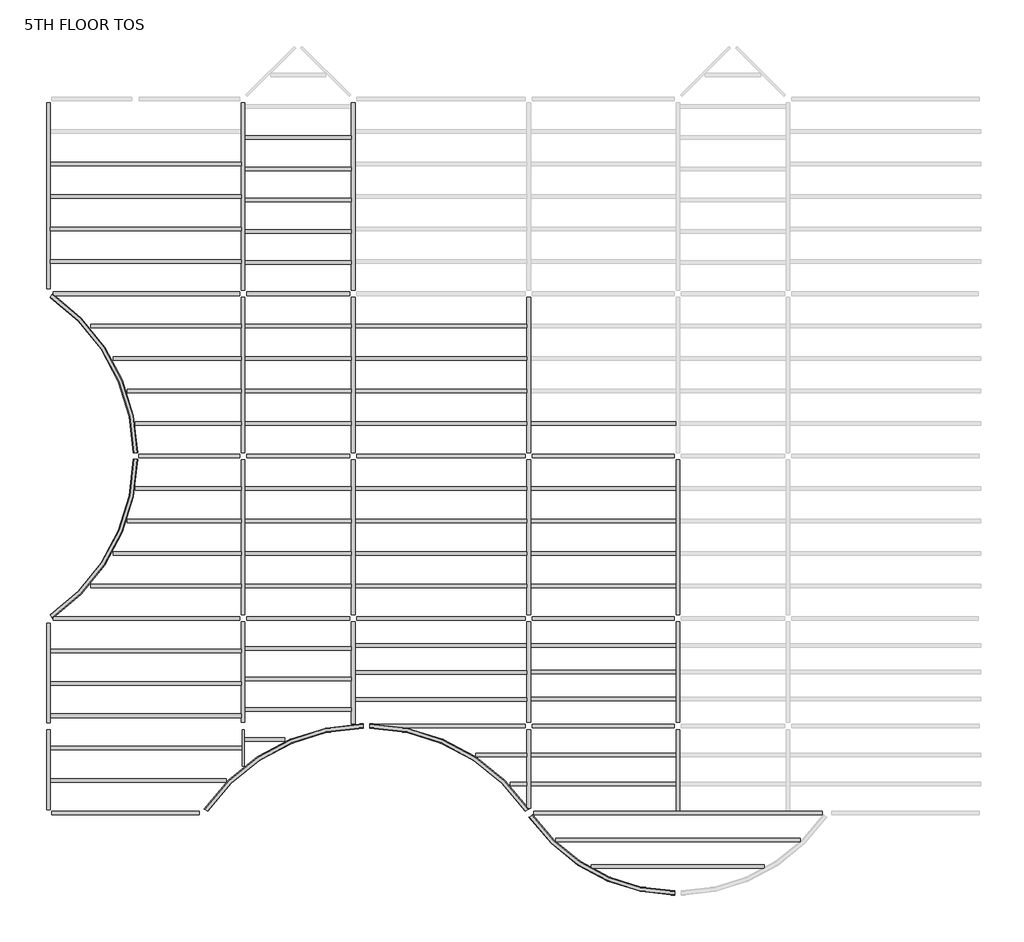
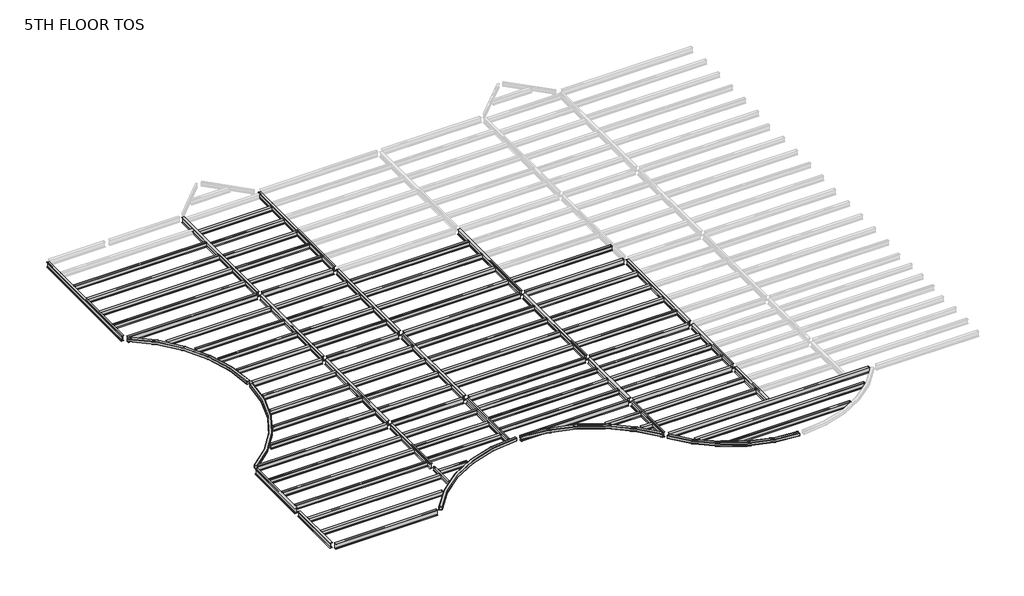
# One storey, part 1 of 2: 97 beams.
"""IFC4 building model written with IfcOpenShell, lengths in millimetres."""

from ifc_helpers import new_model, si_unit, origin, place, context, project, spatial, transform, mapped, element, save
from components import m_hss_square_hss203_2x203_2x9_5_914ff4eb, m_hss_square_hss203_2x203_2x9_5_0e3d8e6e, m_hss_square_hss203_2x203_2x9_5_16dc1c03, m_hss_square_hss203_2x203_2x9_5_18346204, m_hss_square_hss203_2x203_2x9_5_d5f1e8c4, ub_universal_beams_ub254x102x28_4e7f3726, ub_universal_beams_ub305x165x40_c4d0385b, ub_universal_beams_ub305x165x40_d3abc31d, ub_universal_beams_ub305x165x40_0c73730f, ub_universal_beams_ub305x165x40_2a963f0c, ub_universal_beams_ub305x165x40_0a5f2f96, ub_universal_beams_ub305x165x40_d1f7c369, ub_universal_beams_ub305x165x40_83d7b7d5, ub_universal_beams_ub305x165x40_729a4ea5, ub_universal_beams_ub305x165x40_71dfa851, ub_universal_beams_ub305x165x40_619b5398, ub_universal_beams_ub305x165x40_c3492db1, ub_universal_beams_ub305x165x40_8f1c350d, ub_universal_beams_ub305x165x40_3afb5f90, ub_universal_beams_ub305x165x40_767d1929, ub_universal_beams_ub305x165x40_5941ca45, ub_universal_beams_ub356x171x51_ef72dcdd, ub_universal_beams_ub356x171x51_7f80702c, ub_universal_beams_ub356x171x51_dfc36663, ub_universal_beams_ub356x171x51_405a853e, ub_universal_beams_ub356x171x51_e47b7055, ub_universal_beams_ub356x171x51_e97f8d2e, ub_universal_beams_ub356x171x51_11d6b780, ub_universal_beams_ub356x171x51_76b2d20b, ub_universal_beams_ub356x171x51_145ecd4b, ub_universal_beams_ub356x171x51_c7dff8d2, ub_universal_beams_ub356x171x51_834c6e34, ub_universal_beams_ub356x171x51_a38b99de, ub_universal_beams_ub356x171x51_d8f4cdde, ub_universal_beams_ub356x171x51_8094f821, ub_universal_beams_ub356x171x51_c03c70fb, ub_universal_beams_ub356x171x51_e661f2e4, ub_universal_beams_ub356x171x51_3ee91673, ub_universal_beams_ub356x171x51_a871b283, ub_universal_beams_ub356x171x51_741bae58

model = new_model("IFC4")

# Units and contexts
model_context = context("Model", 3, world=origin())
ifc_project = project(units=[si_unit("LENGTHUNIT", "METRE", prefix="MILLI")], contexts=[model_context])

# Site, building, storey
site = spatial("IfcSite", under=ifc_project)
building = spatial("IfcBuilding", under=site)
storey = spatial("IfcBuildingStorey", under=building, Name="5TH FLOOR TOS", Elevation=22707.6)

# Beams
placement = place(None, origin())
m_hss_square_hss203_2x203_2x9_5_shape = m_hss_square_hss203_2x203_2x9_5_914ff4eb(model_context)
element("IfcBeam", 1, ObjectType="M_HSS Square : HSS203.2X203.2X9.5", at=placement, inside=storey, context=model_context, shape_type="MappedRepresentation", body=[
    mapped(m_hss_square_hss203_2x203_2x9_5_shape, transform((22710.575, 155.575, 22606.1), x_axis=(-0.552849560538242, 0.8332810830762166, 0.0), y_axis=(-0.8332810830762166, -0.552849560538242, 0.0), z_axis=(0.0, 0.0, 1.0))),
])
m_hss_square_hss203_2x203_2x9_5_2_shape = m_hss_square_hss203_2x203_2x9_5_0e3d8e6e(model_context)
element("IfcBeam", 2, ObjectType="M_HSS Square : HSS203.2X203.2X9.5", at=placement, inside=storey, context=model_context, shape_type="MappedRepresentation", body=[
    mapped(m_hss_square_hss203_2x203_2x9_5_2_shape, transform((155.575, 9299.575, 22606.1), x_axis=(0.8332810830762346, 0.5528495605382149, 0.0), y_axis=(-0.5528495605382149, 0.8332810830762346, 0.0), z_axis=(0.0, 0.0, 1.0))),
])
m_hss_square_hss203_2x203_2x9_5_3_shape = m_hss_square_hss203_2x203_2x9_5_16dc1c03(model_context)
element("IfcBeam", 3, ObjectType="M_HSS Square : HSS203.2X203.2X9.5", at=placement, inside=storey, context=model_context, shape_type="MappedRepresentation", body=[
    mapped(m_hss_square_hss203_2x203_2x9_5_3_shape, transform((155.575, 24539.575, 22606.1), x_axis=(0.8332810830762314, -0.5528495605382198, 0.0), y_axis=(0.5528495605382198, 0.8332810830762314, 0.0), z_axis=(0.0, 0.0, 1.0))),
])
m_hss_square_hss203_2x203_2x9_5_4_shape = m_hss_square_hss203_2x203_2x9_5_18346204(model_context)
element("IfcBeam", 4, ObjectType="M_HSS Square : HSS203.2X203.2X9.5", at=placement, inside=storey, context=model_context, shape_type="MappedRepresentation", body=[
    mapped(m_hss_square_hss203_2x203_2x9_5_4_shape, transform((29734.7266693, -3601.398624, 22606.1), x_axis=(-0.9999968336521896, -0.0025164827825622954, 0.0), y_axis=(0.0025164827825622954, -0.9999968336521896, 0.0), z_axis=(0.0, 0.0, 1.0))),
])
m_hss_square_hss203_2x203_2x9_5_5_shape = m_hss_square_hss203_2x203_2x9_5_d5f1e8c4(model_context)
element("IfcBeam", 5, ObjectType="M_HSS Square : HSS203.2X203.2X9.5", at=placement, inside=storey, context=model_context, shape_type="MappedRepresentation", body=[
    mapped(m_hss_square_hss203_2x203_2x9_5_5_shape, transform((15096.4572854, 4244.5731081, 22606.1), x_axis=(-0.9999997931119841, 0.0006432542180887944, 0.0), y_axis=(-0.0006432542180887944, -0.9999997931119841, 0.0), z_axis=(0.0, 0.0, 1.0))),
])
ub_universal_beams_ub254x102x28_shape = ub_universal_beams_ub254x102x28_4e7f3726(model_context)
element("IfcBeam", 6, ObjectType="UB-Universal Beams : UB254x102x28", at=placement, inside=storey, context=model_context, shape_type="MappedRepresentation", body=[
    mapped(ub_universal_beams_ub254x102x28_shape, transform((9299.575, 3210.915913, 22577.4), x_axis=(0.0, -1.0, 0.0), y_axis=(1.0, 0.0, 0.0), z_axis=(0.0, 0.0, 1.0))),
])
ub_universal_beams_ub305x165x40_shape = ub_universal_beams_ub305x165x40_c4d0385b(model_context)
element("IfcBeam", 7, ObjectType="UB-Universal Beams : UB305x165x40", at=placement, inside=storey, context=model_context, shape_type="MappedRepresentation", body=[
    mapped(ub_universal_beams_ub305x165x40_shape, transform((4727.575, 30635.575, 22555.9), x_axis=(1.0, 0.0, 0.0), y_axis=(0.0, 1.0, 0.0), z_axis=(0.0, 0.0, 1.0))),
])
element("IfcBeam", 8, ObjectType="UB-Universal Beams : UB305x165x40", at=placement, inside=storey, context=model_context, shape_type="MappedRepresentation", body=[
    mapped(ub_universal_beams_ub305x165x40_shape, transform((4727.575, 29111.575, 22555.9), x_axis=(1.0, 0.0, 0.0), y_axis=(0.0, 1.0, 0.0), z_axis=(0.0, 0.0, 1.0))),
])
element("IfcBeam", 9, ObjectType="UB-Universal Beams : UB305x165x40", at=placement, inside=storey, context=model_context, shape_type="MappedRepresentation", body=[
    mapped(ub_universal_beams_ub305x165x40_shape, transform((4727.575, 27587.575, 22555.9), x_axis=(1.0, 0.0, 0.0), y_axis=(0.0, 1.0, 0.0), z_axis=(0.0, 0.0, 1.0))),
])
element("IfcBeam", 10, ObjectType="UB-Universal Beams : UB305x165x40", at=placement, inside=storey, context=model_context, shape_type="MappedRepresentation", body=[
    mapped(ub_universal_beams_ub305x165x40_shape, transform((4727.575, 26063.575, 22555.9), x_axis=(1.0, 0.0, 0.0), y_axis=(0.0, 1.0, 0.0), z_axis=(0.0, 0.0, 1.0))),
])
element("IfcBeam", 11, ObjectType="UB-Universal Beams : UB305x165x40", at=placement, inside=storey, context=model_context, shape_type="MappedRepresentation", body=[
    mapped(ub_universal_beams_ub305x165x40_shape, transform((4727.575, 4727.575, 22555.9), x_axis=(-1.0, 0.0, 0.0), y_axis=(0.0, -1.0, 0.0), z_axis=(0.0, 0.0, 1.0))),
])
element("IfcBeam", 12, ObjectType="UB-Universal Beams : UB305x165x40", at=placement, inside=storey, context=model_context, shape_type="MappedRepresentation", body=[
    mapped(ub_universal_beams_ub305x165x40_shape, transform((4727.575, 6251.575, 22555.9), x_axis=(-1.0, 0.0, 0.0), y_axis=(0.0, -1.0, 0.0), z_axis=(0.0, 0.0, 1.0))),
])
element("IfcBeam", 13, ObjectType="UB-Universal Beams : UB305x165x40", at=placement, inside=storey, context=model_context, shape_type="MappedRepresentation", body=[
    mapped(ub_universal_beams_ub305x165x40_shape, transform((4727.575, 7775.575, 22555.9), x_axis=(-1.0, 0.0, 0.0), y_axis=(0.0, -1.0, 0.0), z_axis=(0.0, 0.0, 1.0))),
])
ub_universal_beams_ub305x165x40_2_shape = ub_universal_beams_ub305x165x40_d3abc31d(model_context)
element("IfcBeam", 14, ObjectType="UB-Universal Beams : UB305x165x40", at=placement, inside=storey, context=model_context, shape_type="MappedRepresentation", body=[
    mapped(ub_universal_beams_ub305x165x40_2_shape, transform((11885.575, 31870.825, 22555.9), x_axis=(1.0, 0.0, 0.0), y_axis=(0.0, 1.0, 0.0), z_axis=(0.0, 0.0, 1.0))),
])
element("IfcBeam", 15, ObjectType="UB-Universal Beams : UB305x165x40", at=placement, inside=storey, context=model_context, shape_type="MappedRepresentation", body=[
    mapped(ub_universal_beams_ub305x165x40_2_shape, transform((11885.575, 30404.575, 22555.9), x_axis=(1.0, 0.0, 0.0), y_axis=(0.0, 1.0, 0.0), z_axis=(0.0, 0.0, 1.0))),
])
element("IfcBeam", 16, ObjectType="UB-Universal Beams : UB305x165x40", at=placement, inside=storey, context=model_context, shape_type="MappedRepresentation", body=[
    mapped(ub_universal_beams_ub305x165x40_2_shape, transform((11885.575, 28938.325, 22555.9), x_axis=(1.0, 0.0, 0.0), y_axis=(0.0, 1.0, 0.0), z_axis=(0.0, 0.0, 1.0))),
])
element("IfcBeam", 17, ObjectType="UB-Universal Beams : UB305x165x40", at=placement, inside=storey, context=model_context, shape_type="MappedRepresentation", body=[
    mapped(ub_universal_beams_ub305x165x40_2_shape, transform((11885.575, 27472.075, 22555.9), x_axis=(1.0, 0.0, 0.0), y_axis=(0.0, 1.0, 0.0), z_axis=(0.0, 0.0, 1.0))),
])
element("IfcBeam", 18, ObjectType="UB-Universal Beams : UB305x165x40", at=placement, inside=storey, context=model_context, shape_type="MappedRepresentation", body=[
    mapped(ub_universal_beams_ub305x165x40_2_shape, transform((11885.575, 26005.825, 22555.9), x_axis=(1.0, 0.0, 0.0), y_axis=(0.0, 1.0, 0.0), z_axis=(0.0, 0.0, 1.0))),
])
element("IfcBeam", 19, ObjectType="UB-Universal Beams : UB305x165x40", at=placement, inside=storey, context=model_context, shape_type="MappedRepresentation", body=[
    mapped(ub_universal_beams_ub305x165x40_2_shape, transform((11885.575, 23015.575, 22555.9), x_axis=(1.0, 0.0, 0.0), y_axis=(0.0, 1.0, 0.0), z_axis=(0.0, 0.0, 1.0))),
])
element("IfcBeam", 20, ObjectType="UB-Universal Beams : UB305x165x40", at=placement, inside=storey, context=model_context, shape_type="MappedRepresentation", body=[
    mapped(ub_universal_beams_ub305x165x40_2_shape, transform((11885.575, 21491.575, 22555.9), x_axis=(1.0, 0.0, 0.0), y_axis=(0.0, 1.0, 0.0), z_axis=(0.0, 0.0, 1.0))),
])
element("IfcBeam", 21, ObjectType="UB-Universal Beams : UB305x165x40", at=placement, inside=storey, context=model_context, shape_type="MappedRepresentation", body=[
    mapped(ub_universal_beams_ub305x165x40_2_shape, transform((11885.575, 19967.575, 22555.9), x_axis=(1.0, 0.0, 0.0), y_axis=(0.0, 1.0, 0.0), z_axis=(0.0, 0.0, 1.0))),
])
element("IfcBeam", 22, ObjectType="UB-Universal Beams : UB305x165x40", at=placement, inside=storey, context=model_context, shape_type="MappedRepresentation", body=[
    mapped(ub_universal_beams_ub305x165x40_2_shape, transform((11885.575, 18443.575, 22555.9), x_axis=(1.0, 0.0, 0.0), y_axis=(0.0, 1.0, 0.0), z_axis=(0.0, 0.0, 1.0))),
])
element("IfcBeam", 23, ObjectType="UB-Universal Beams : UB305x165x40", at=placement, inside=storey, context=model_context, shape_type="MappedRepresentation", body=[
    mapped(ub_universal_beams_ub305x165x40_2_shape, transform((11885.575, 15395.575, 22555.9), x_axis=(1.0, 0.0, 0.0), y_axis=(0.0, 1.0, 0.0), z_axis=(0.0, 0.0, 1.0))),
])
element("IfcBeam", 24, ObjectType="UB-Universal Beams : UB305x165x40", at=placement, inside=storey, context=model_context, shape_type="MappedRepresentation", body=[
    mapped(ub_universal_beams_ub305x165x40_2_shape, transform((11885.575, 13871.575, 22555.9), x_axis=(1.0, 0.0, 0.0), y_axis=(0.0, 1.0, 0.0), z_axis=(0.0, 0.0, 1.0))),
])
element("IfcBeam", 25, ObjectType="UB-Universal Beams : UB305x165x40", at=placement, inside=storey, context=model_context, shape_type="MappedRepresentation", body=[
    mapped(ub_universal_beams_ub305x165x40_2_shape, transform((11885.575, 12347.575, 22555.9), x_axis=(1.0, 0.0, 0.0), y_axis=(0.0, 1.0, 0.0), z_axis=(0.0, 0.0, 1.0))),
])
element("IfcBeam", 26, ObjectType="UB-Universal Beams : UB305x165x40", at=placement, inside=storey, context=model_context, shape_type="MappedRepresentation", body=[
    mapped(ub_universal_beams_ub305x165x40_2_shape, transform((11885.575, 10823.575, 22555.9), x_axis=(1.0, 0.0, 0.0), y_axis=(0.0, 1.0, 0.0), z_axis=(0.0, 0.0, 1.0))),
])
element("IfcBeam", 27, ObjectType="UB-Universal Beams : UB305x165x40", at=placement, inside=storey, context=model_context, shape_type="MappedRepresentation", body=[
    mapped(ub_universal_beams_ub305x165x40_2_shape, transform((11885.575, 5026.1840956, 22555.9), x_axis=(-1.0, 0.0, 0.0), y_axis=(0.0, -1.0, 0.0), z_axis=(0.0, 0.0, 1.0))),
])
element("IfcBeam", 28, ObjectType="UB-Universal Beams : UB305x165x40", at=placement, inside=storey, context=model_context, shape_type="MappedRepresentation", body=[
    mapped(ub_universal_beams_ub305x165x40_2_shape, transform((11885.575, 6450.6477304, 22555.9), x_axis=(-1.0, 0.0, 0.0), y_axis=(0.0, -1.0, 0.0), z_axis=(0.0, 0.0, 1.0))),
])
element("IfcBeam", 29, ObjectType="UB-Universal Beams : UB305x165x40", at=placement, inside=storey, context=model_context, shape_type="MappedRepresentation", body=[
    mapped(ub_universal_beams_ub305x165x40_2_shape, transform((11885.575, 7875.1113652, 22555.9), x_axis=(-1.0, 0.0, 0.0), y_axis=(0.0, -1.0, 0.0), z_axis=(0.0, 0.0, 1.0))),
])
ub_universal_beams_ub305x165x40_3_shape = ub_universal_beams_ub305x165x40_0c73730f(model_context)
element("IfcBeam", 30, ObjectType="UB-Universal Beams : UB305x165x40", at=placement, inside=storey, context=model_context, shape_type="MappedRepresentation", body=[
    mapped(ub_universal_beams_ub305x165x40_3_shape, transform((18591.075, 5492.5943214, 22555.9), x_axis=(-1.0, 0.0, 0.0), y_axis=(0.0, -1.0, 0.0), z_axis=(0.0, 0.0, 1.0))),
])
element("IfcBeam", 31, ObjectType="UB-Universal Beams : UB305x165x40", at=placement, inside=storey, context=model_context, shape_type="MappedRepresentation", body=[
    mapped(ub_universal_beams_ub305x165x40_3_shape, transform((18591.075, 6761.5878809, 22555.9), x_axis=(-1.0, 0.0, 0.0), y_axis=(0.0, -1.0, 0.0), z_axis=(0.0, 0.0, 1.0))),
])
element("IfcBeam", 32, ObjectType="UB-Universal Beams : UB305x165x40", at=placement, inside=storey, context=model_context, shape_type="MappedRepresentation", body=[
    mapped(ub_universal_beams_ub305x165x40_3_shape, transform((18591.075, 8030.5814405, 22555.9), x_axis=(-1.0, 0.0, 0.0), y_axis=(0.0, -1.0, 0.0), z_axis=(0.0, 0.0, 1.0))),
])
element("IfcBeam", 33, ObjectType="UB-Universal Beams : UB305x165x40", at=placement, inside=storey, context=model_context, shape_type="MappedRepresentation", body=[
    mapped(ub_universal_beams_ub305x165x40_3_shape, transform((18591.075, 15395.575, 22555.9), x_axis=(1.0, 0.0, 0.0), y_axis=(0.0, 1.0, 0.0), z_axis=(0.0, 0.0, 1.0))),
])
element("IfcBeam", 34, ObjectType="UB-Universal Beams : UB305x165x40", at=placement, inside=storey, context=model_context, shape_type="MappedRepresentation", body=[
    mapped(ub_universal_beams_ub305x165x40_3_shape, transform((18591.075, 13871.575, 22555.9), x_axis=(1.0, 0.0, 0.0), y_axis=(0.0, 1.0, 0.0), z_axis=(0.0, 0.0, 1.0))),
])
element("IfcBeam", 35, ObjectType="UB-Universal Beams : UB305x165x40", at=placement, inside=storey, context=model_context, shape_type="MappedRepresentation", body=[
    mapped(ub_universal_beams_ub305x165x40_3_shape, transform((18591.075, 12347.575, 22555.9), x_axis=(1.0, 0.0, 0.0), y_axis=(0.0, 1.0, 0.0), z_axis=(0.0, 0.0, 1.0))),
])
element("IfcBeam", 36, ObjectType="UB-Universal Beams : UB305x165x40", at=placement, inside=storey, context=model_context, shape_type="MappedRepresentation", body=[
    mapped(ub_universal_beams_ub305x165x40_3_shape, transform((18591.075, 10823.575, 22555.9), x_axis=(1.0, 0.0, 0.0), y_axis=(0.0, 1.0, 0.0), z_axis=(0.0, 0.0, 1.0))),
])
element("IfcBeam", 37, ObjectType="UB-Universal Beams : UB305x165x40", at=placement, inside=storey, context=model_context, shape_type="MappedRepresentation", body=[
    mapped(ub_universal_beams_ub305x165x40_3_shape, transform((18591.075, 23015.575, 22555.9), x_axis=(1.0, 0.0, 0.0), y_axis=(0.0, 1.0, 0.0), z_axis=(0.0, 0.0, 1.0))),
])
element("IfcBeam", 38, ObjectType="UB-Universal Beams : UB305x165x40", at=placement, inside=storey, context=model_context, shape_type="MappedRepresentation", body=[
    mapped(ub_universal_beams_ub305x165x40_3_shape, transform((18591.075, 21491.575, 22555.9), x_axis=(1.0, 0.0, 0.0), y_axis=(0.0, 1.0, 0.0), z_axis=(0.0, 0.0, 1.0))),
])
element("IfcBeam", 39, ObjectType="UB-Universal Beams : UB305x165x40", at=placement, inside=storey, context=model_context, shape_type="MappedRepresentation", body=[
    mapped(ub_universal_beams_ub305x165x40_3_shape, transform((18591.075, 19967.575, 22555.9), x_axis=(1.0, 0.0, 0.0), y_axis=(0.0, 1.0, 0.0), z_axis=(0.0, 0.0, 1.0))),
])
element("IfcBeam", 40, ObjectType="UB-Universal Beams : UB305x165x40", at=placement, inside=storey, context=model_context, shape_type="MappedRepresentation", body=[
    mapped(ub_universal_beams_ub305x165x40_3_shape, transform((18591.075, 18443.575, 22555.9), x_axis=(1.0, 0.0, 0.0), y_axis=(0.0, 1.0, 0.0), z_axis=(0.0, 0.0, 1.0))),
])
ub_universal_beams_ub305x165x40_4_shape = ub_universal_beams_ub305x165x40_2a963f0c(model_context)
element("IfcBeam", 41, ObjectType="UB-Universal Beams : UB305x165x40", at=placement, inside=storey, context=model_context, shape_type="MappedRepresentation", body=[
    mapped(ub_universal_beams_ub305x165x40_4_shape, transform((26211.075, 18443.575, 22555.9), x_axis=(1.0, 0.0, 0.0), y_axis=(0.0, 1.0, 0.0), z_axis=(0.0, 0.0, 1.0))),
])
element("IfcBeam", 42, ObjectType="UB-Universal Beams : UB305x165x40", at=placement, inside=storey, context=model_context, shape_type="MappedRepresentation", body=[
    mapped(ub_universal_beams_ub305x165x40_4_shape, transform((26211.075, 15395.575, 22555.9), x_axis=(1.0, 0.0, 0.0), y_axis=(0.0, 1.0, 0.0), z_axis=(0.0, 0.0, 1.0))),
])
element("IfcBeam", 43, ObjectType="UB-Universal Beams : UB305x165x40", at=placement, inside=storey, context=model_context, shape_type="MappedRepresentation", body=[
    mapped(ub_universal_beams_ub305x165x40_4_shape, transform((26211.075, 13871.575, 22555.9), x_axis=(1.0, 0.0, 0.0), y_axis=(0.0, 1.0, 0.0), z_axis=(0.0, 0.0, 1.0))),
])
element("IfcBeam", 44, ObjectType="UB-Universal Beams : UB305x165x40", at=placement, inside=storey, context=model_context, shape_type="MappedRepresentation", body=[
    mapped(ub_universal_beams_ub305x165x40_4_shape, transform((26211.075, 12347.575, 22555.9), x_axis=(1.0, 0.0, 0.0), y_axis=(0.0, 1.0, 0.0), z_axis=(0.0, 0.0, 1.0))),
])
element("IfcBeam", 45, ObjectType="UB-Universal Beams : UB305x165x40", at=placement, inside=storey, context=model_context, shape_type="MappedRepresentation", body=[
    mapped(ub_universal_beams_ub305x165x40_4_shape, transform((26211.075, 10823.575, 22555.9), x_axis=(1.0, 0.0, 0.0), y_axis=(0.0, 1.0, 0.0), z_axis=(0.0, 0.0, 1.0))),
])
element("IfcBeam", 46, ObjectType="UB-Universal Beams : UB305x165x40", at=placement, inside=storey, context=model_context, shape_type="MappedRepresentation", body=[
    mapped(ub_universal_beams_ub305x165x40_4_shape, transform((26211.075, 5508.325, 22555.9), x_axis=(-1.0, 0.0, 0.0), y_axis=(0.0, -1.0, 0.0), z_axis=(0.0, 0.0, 1.0))),
])
element("IfcBeam", 47, ObjectType="UB-Universal Beams : UB305x165x40", at=placement, inside=storey, context=model_context, shape_type="MappedRepresentation", body=[
    mapped(ub_universal_beams_ub305x165x40_4_shape, transform((26211.075, 6772.075, 22555.9), x_axis=(-1.0, 0.0, 0.0), y_axis=(0.0, -1.0, 0.0), z_axis=(0.0, 0.0, 1.0))),
])
element("IfcBeam", 48, ObjectType="UB-Universal Beams : UB305x165x40", at=placement, inside=storey, context=model_context, shape_type="MappedRepresentation", body=[
    mapped(ub_universal_beams_ub305x165x40_4_shape, transform((26211.075, 8035.825, 22555.9), x_axis=(-1.0, 0.0, 0.0), y_axis=(0.0, -1.0, 0.0), z_axis=(0.0, 0.0, 1.0))),
])
element("IfcBeam", 49, ObjectType="UB-Universal Beams : UB305x165x40", at=placement, inside=storey, context=model_context, shape_type="MappedRepresentation", body=[
    mapped(ub_universal_beams_ub305x165x40_4_shape, transform((26211.075, 1518.575, 22555.9), x_axis=(-1.0, 0.0, 0.0), y_axis=(0.0, -1.0, 0.0), z_axis=(0.0, 0.0, 1.0))),
])
element("IfcBeam", 50, ObjectType="UB-Universal Beams : UB305x165x40", at=placement, inside=storey, context=model_context, shape_type="MappedRepresentation", body=[
    mapped(ub_universal_beams_ub305x165x40_4_shape, transform((26211.075, 2881.575, 22555.9), x_axis=(-1.0, 0.0, 0.0), y_axis=(0.0, -1.0, 0.0), z_axis=(0.0, 0.0, 1.0))),
])
ub_universal_beams_ub305x165x40_5_shape = ub_universal_beams_ub305x165x40_0a5f2f96(model_context)
element("IfcBeam", 51, ObjectType="UB-Universal Beams : UB305x165x40", at=placement, inside=storey, context=model_context, shape_type="MappedRepresentation", body=[
    mapped(ub_universal_beams_ub305x165x40_5_shape, transform((29713.575, -2349.0918253, 22555.9), x_axis=(-1.0, 0.0, 0.0), y_axis=(0.0, -1.0, 0.0), z_axis=(0.0, 0.0, 1.0))),
])
ub_universal_beams_ub305x165x40_6_shape = ub_universal_beams_ub305x165x40_d1f7c369(model_context)
element("IfcBeam", 52, ObjectType="UB-Universal Beams : UB305x165x40", at=placement, inside=storey, context=model_context, shape_type="MappedRepresentation", body=[
    mapped(ub_universal_beams_ub305x165x40_6_shape, transform((29713.575, -1096.7584126, 22555.9), x_axis=(-1.0, 0.0, 0.0), y_axis=(0.0, -1.0, 0.0), z_axis=(0.0, 0.0, 1.0))),
])
ub_universal_beams_ub305x165x40_7_shape = ub_universal_beams_ub305x165x40_83d7b7d5(model_context)
element("IfcBeam", 53, ObjectType="UB-Universal Beams : UB305x165x40", at=placement, inside=storey, context=model_context, shape_type="MappedRepresentation", body=[
    mapped(ub_universal_beams_ub305x165x40_7_shape, transform((22157.3041106, 1518.575, 22555.9), x_axis=(-1.0, 0.0, 0.0), y_axis=(0.0, -1.0, 0.0), z_axis=(0.0, 0.0, 1.0))),
])
ub_universal_beams_ub305x165x40_8_shape = ub_universal_beams_ub305x165x40_729a4ea5(model_context)
element("IfcBeam", 54, ObjectType="UB-Universal Beams : UB305x165x40", at=placement, inside=storey, context=model_context, shape_type="MappedRepresentation", body=[
    mapped(ub_universal_beams_ub305x165x40_8_shape, transform((21302.1545844, 2881.575, 22555.9), x_axis=(-1.0, 0.0, 0.0), y_axis=(0.0, -1.0, 0.0), z_axis=(0.0, 0.0, 1.0))),
])
ub_universal_beams_ub305x165x40_9_shape = ub_universal_beams_ub305x165x40_71dfa851(model_context)
element("IfcBeam", 55, ObjectType="UB-Universal Beams : UB305x165x40", at=placement, inside=storey, context=model_context, shape_type="MappedRepresentation", body=[
    mapped(ub_universal_beams_ub305x165x40_9_shape, transform((10511.0323166, 3601.7204608, 22555.9), x_axis=(-1.0, 0.0, 0.0), y_axis=(0.0, -1.0, 0.0), z_axis=(0.0, 0.0, 1.0))),
])
ub_universal_beams_ub305x165x40_10_shape = ub_universal_beams_ub305x165x40_619b5398(model_context)
element("IfcBeam", 56, ObjectType="UB-Universal Beams : UB305x165x40", at=placement, inside=storey, context=model_context, shape_type="MappedRepresentation", body=[
    mapped(ub_universal_beams_ub305x165x40_10_shape, transform((4447.6838282, 1679.575, 22555.9), x_axis=(-1.0, 0.0, 0.0), y_axis=(0.0, -1.0, 0.0), z_axis=(0.0, 0.0, 1.0))),
])
ub_universal_beams_ub305x165x40_11_shape = ub_universal_beams_ub305x165x40_c3492db1(model_context)
element("IfcBeam", 57, ObjectType="UB-Universal Beams : UB305x165x40", at=placement, inside=storey, context=model_context, shape_type="MappedRepresentation", body=[
    mapped(ub_universal_beams_ub305x165x40_11_shape, transform((4727.575, 3203.575, 22555.9), x_axis=(-1.0, 0.0, 0.0), y_axis=(0.0, -1.0, 0.0), z_axis=(0.0, 0.0, 1.0))),
])
ub_universal_beams_ub305x165x40_12_shape = ub_universal_beams_ub305x165x40_8f1c350d(model_context)
element("IfcBeam", 58, ObjectType="UB-Universal Beams : UB305x165x40", at=placement, inside=storey, context=model_context, shape_type="MappedRepresentation", body=[
    mapped(ub_universal_beams_ub305x165x40_12_shape, transform((6708.1318611, 15395.575, 22555.9), x_axis=(1.0, 0.0, 0.0), y_axis=(0.0, 1.0, 0.0), z_axis=(0.0, 0.0, 1.0))),
])
element("IfcBeam", 59, ObjectType="UB-Universal Beams : UB305x165x40", at=placement, inside=storey, context=model_context, shape_type="MappedRepresentation", body=[
    mapped(ub_universal_beams_ub305x165x40_12_shape, transform((6708.1318611, 18443.575, 22555.9), x_axis=(1.0, 0.0, 0.0), y_axis=(0.0, 1.0, 0.0), z_axis=(0.0, 0.0, 1.0))),
])
ub_universal_beams_ub305x165x40_13_shape = ub_universal_beams_ub305x165x40_3afb5f90(model_context)
element("IfcBeam", 60, ObjectType="UB-Universal Beams : UB305x165x40", at=placement, inside=storey, context=model_context, shape_type="MappedRepresentation", body=[
    mapped(ub_universal_beams_ub305x165x40_13_shape, transform((6510.6153272, 13871.575, 22555.9), x_axis=(1.0, 0.0, 0.0), y_axis=(0.0, 1.0, 0.0), z_axis=(0.0, 0.0, 1.0))),
])
element("IfcBeam", 61, ObjectType="UB-Universal Beams : UB305x165x40", at=placement, inside=storey, context=model_context, shape_type="MappedRepresentation", body=[
    mapped(ub_universal_beams_ub305x165x40_13_shape, transform((6510.6153272, 19967.575, 22555.9), x_axis=(1.0, 0.0, 0.0), y_axis=(0.0, 1.0, 0.0), z_axis=(0.0, 0.0, 1.0))),
])
ub_universal_beams_ub305x165x40_14_shape = ub_universal_beams_ub305x165x40_767d1929(model_context)
element("IfcBeam", 62, ObjectType="UB-Universal Beams : UB305x165x40", at=placement, inside=storey, context=model_context, shape_type="MappedRepresentation", body=[
    mapped(ub_universal_beams_ub305x165x40_14_shape, transform((6159.5874928, 12347.575, 22555.9), x_axis=(1.0, 0.0, 0.0), y_axis=(0.0, 1.0, 0.0), z_axis=(0.0, 0.0, 1.0))),
])
element("IfcBeam", 63, ObjectType="UB-Universal Beams : UB305x165x40", at=placement, inside=storey, context=model_context, shape_type="MappedRepresentation", body=[
    mapped(ub_universal_beams_ub305x165x40_14_shape, transform((6159.5874928, 21491.575, 22555.9), x_axis=(1.0, 0.0, 0.0), y_axis=(0.0, 1.0, 0.0), z_axis=(0.0, 0.0, 1.0))),
])
ub_universal_beams_ub305x165x40_15_shape = ub_universal_beams_ub305x165x40_5941ca45(model_context)
element("IfcBeam", 64, ObjectType="UB-Universal Beams : UB305x165x40", at=placement, inside=storey, context=model_context, shape_type="MappedRepresentation", body=[
    mapped(ub_universal_beams_ub305x165x40_15_shape, transform((5607.9405309, 10823.575, 22555.9), x_axis=(1.0, 0.0, 0.0), y_axis=(0.0, 1.0, 0.0), z_axis=(0.0, 0.0, 1.0))),
])
element("IfcBeam", 65, ObjectType="UB-Universal Beams : UB305x165x40", at=placement, inside=storey, context=model_context, shape_type="MappedRepresentation", body=[
    mapped(ub_universal_beams_ub305x165x40_15_shape, transform((5607.9405309, 23015.575, 22555.9), x_axis=(1.0, 0.0, 0.0), y_axis=(0.0, 1.0, 0.0), z_axis=(0.0, 0.0, 1.0))),
])
ub_universal_beams_ub356x171x51_shape = ub_universal_beams_ub356x171x51_ef72dcdd(model_context)
element("IfcBeam", 66, ObjectType="UB-Universal Beams : UB356x171x51", at=placement, inside=storey, context=model_context, shape_type="MappedRepresentation", body=[
    mapped(ub_universal_beams_ub356x171x51_shape, transform((9299.575, 6772.075, 22530.1), x_axis=(0.0, -1.0, 0.0), y_axis=(1.0, 0.0, 0.0), z_axis=(0.0, 0.0, 1.0))),
])
element("IfcBeam", 67, ObjectType="UB-Universal Beams : UB356x171x51", at=placement, inside=storey, context=model_context, shape_type="MappedRepresentation", body=[
    mapped(ub_universal_beams_ub356x171x51_shape, transform((29711.575, 6772.075, 22530.1), x_axis=(0.0, 1.0, 0.0), y_axis=(-1.0, 0.0, 0.0), z_axis=(0.0, 0.0, 1.0))),
])
element("IfcBeam", 68, ObjectType="UB-Universal Beams : UB356x171x51", at=placement, inside=storey, context=model_context, shape_type="MappedRepresentation", body=[
    mapped(ub_universal_beams_ub356x171x51_shape, transform((22710.575, 6772.075, 22530.1), x_axis=(0.0, -1.0, 0.0), y_axis=(1.0, 0.0, 0.0), z_axis=(0.0, 0.0, 1.0))),
])
ub_universal_beams_ub356x171x51_2_shape = ub_universal_beams_ub356x171x51_7f80702c(model_context)
element("IfcBeam", 69, ObjectType="UB-Universal Beams : UB356x171x51", at=placement, inside=storey, context=model_context, shape_type="MappedRepresentation", body=[
    mapped(ub_universal_beams_ub356x171x51_2_shape, transform((3813.075, 155.575, 22530.1), x_axis=(-1.0, 0.0, 0.0), y_axis=(0.0, -1.0, 0.0), z_axis=(0.0, 0.0, 1.0))),
])
ub_universal_beams_ub356x171x51_3_shape = ub_universal_beams_ub356x171x51_dfc36663(model_context)
element("IfcBeam", 70, ObjectType="UB-Universal Beams : UB356x171x51", at=placement, inside=storey, context=model_context, shape_type="MappedRepresentation", body=[
    mapped(ub_universal_beams_ub356x171x51_3_shape, transform((155.575, 2200.075, 22530.1), x_axis=(0.0, 1.0, 0.0), y_axis=(-1.0, 0.0, 0.0), z_axis=(0.0, 0.0, 1.0))),
])
ub_universal_beams_ub356x171x51_4_shape = ub_universal_beams_ub356x171x51_405a853e(model_context)
element("IfcBeam", 71, ObjectType="UB-Universal Beams : UB356x171x51", at=placement, inside=storey, context=model_context, shape_type="MappedRepresentation", body=[
    mapped(ub_universal_beams_ub356x171x51_4_shape, transform((155.575, 6772.075, 22530.1), x_axis=(0.0, 1.0, 0.0), y_axis=(-1.0, 0.0, 0.0), z_axis=(0.0, 0.0, 1.0))),
])
ub_universal_beams_ub356x171x51_5_shape = ub_universal_beams_ub356x171x51_e47b7055(model_context)
element("IfcBeam", 72, ObjectType="UB-Universal Beams : UB356x171x51", at=placement, inside=storey, context=model_context, shape_type="MappedRepresentation", body=[
    mapped(ub_universal_beams_ub356x171x51_5_shape, transform((155.575, 29111.575, 22530.1), x_axis=(0.0, 1.0, 0.0), y_axis=(-1.0, 0.0, 0.0), z_axis=(0.0, 0.0, 1.0))),
])
ub_universal_beams_ub356x171x51_6_shape = ub_universal_beams_ub356x171x51_e97f8d2e(model_context)
element("IfcBeam", 73, ObjectType="UB-Universal Beams : UB356x171x51", at=placement, inside=storey, context=model_context, shape_type="MappedRepresentation", body=[
    mapped(ub_universal_beams_ub356x171x51_6_shape, transform((4727.575, 24539.575, 22530.1), x_axis=(1.0, 0.0, 0.0), y_axis=(0.0, 1.0, 0.0), z_axis=(0.0, 0.0, 1.0))),
])
ub_universal_beams_ub356x171x51_7_shape = ub_universal_beams_ub356x171x51_11d6b780(model_context)
element("IfcBeam", 74, ObjectType="UB-Universal Beams : UB356x171x51", at=placement, inside=storey, context=model_context, shape_type="MappedRepresentation", body=[
    mapped(ub_universal_beams_ub356x171x51_7_shape, transform((11885.575, 24539.575, 22530.1), x_axis=(1.0, 0.0, 0.0), y_axis=(0.0, 1.0, 0.0), z_axis=(0.0, 0.0, 1.0))),
])
element("IfcBeam", 75, ObjectType="UB-Universal Beams : UB356x171x51", at=placement, inside=storey, context=model_context, shape_type="MappedRepresentation", body=[
    mapped(ub_universal_beams_ub356x171x51_7_shape, transform((11885.575, 9299.575, 22530.1), x_axis=(-1.0, 0.0, 0.0), y_axis=(0.0, -1.0, 0.0), z_axis=(0.0, 0.0, 1.0))),
])
element("IfcBeam", 76, ObjectType="UB-Universal Beams : UB356x171x51", at=placement, inside=storey, context=model_context, shape_type="MappedRepresentation", body=[
    mapped(ub_universal_beams_ub356x171x51_7_shape, transform((11885.575, 16919.575, 22530.1), x_axis=(1.0, 0.0, 0.0), y_axis=(0.0, 1.0, 0.0), z_axis=(0.0, 0.0, 1.0))),
])
ub_universal_beams_ub356x171x51_8_shape = ub_universal_beams_ub356x171x51_76b2d20b(model_context)
element("IfcBeam", 77, ObjectType="UB-Universal Beams : UB356x171x51", at=placement, inside=storey, context=model_context, shape_type="MappedRepresentation", body=[
    mapped(ub_universal_beams_ub356x171x51_8_shape, transform((18591.075, 9299.575, 22530.1), x_axis=(-1.0, 0.0, 0.0), y_axis=(0.0, -1.0, 0.0), z_axis=(0.0, 0.0, 1.0))),
])
element("IfcBeam", 78, ObjectType="UB-Universal Beams : UB356x171x51", at=placement, inside=storey, context=model_context, shape_type="MappedRepresentation", body=[
    mapped(ub_universal_beams_ub356x171x51_8_shape, transform((18591.075, 16919.575, 22530.1), x_axis=(1.0, 0.0, 0.0), y_axis=(0.0, 1.0, 0.0), z_axis=(0.0, 0.0, 1.0))),
])
ub_universal_beams_ub356x171x51_9_shape = ub_universal_beams_ub356x171x51_145ecd4b(model_context)
element("IfcBeam", 79, ObjectType="UB-Universal Beams : UB356x171x51", at=placement, inside=storey, context=model_context, shape_type="MappedRepresentation", body=[
    mapped(ub_universal_beams_ub356x171x51_9_shape, transform((26211.075, 9299.575, 22530.1), x_axis=(-1.0, 0.0, 0.0), y_axis=(0.0, -1.0, 0.0), z_axis=(0.0, 0.0, 1.0))),
])
element("IfcBeam", 80, ObjectType="UB-Universal Beams : UB356x171x51", at=placement, inside=storey, context=model_context, shape_type="MappedRepresentation", body=[
    mapped(ub_universal_beams_ub356x171x51_9_shape, transform((26211.075, 16919.575, 22530.1), x_axis=(1.0, 0.0, 0.0), y_axis=(0.0, 1.0, 0.0), z_axis=(0.0, 0.0, 1.0))),
])
element("IfcBeam", 81, ObjectType="UB-Universal Beams : UB356x171x51", at=placement, inside=storey, context=model_context, shape_type="MappedRepresentation", body=[
    mapped(ub_universal_beams_ub356x171x51_9_shape, transform((26211.075, 4244.575, 22530.1), x_axis=(-1.0, 0.0, 0.0), y_axis=(0.0, -1.0, 0.0), z_axis=(0.0, 0.0, 1.0))),
])
ub_universal_beams_ub356x171x51_10_shape = ub_universal_beams_ub356x171x51_c7dff8d2(model_context)
element("IfcBeam", 82, ObjectType="UB-Universal Beams : UB356x171x51", at=placement, inside=storey, context=model_context, shape_type="MappedRepresentation", body=[
    mapped(ub_universal_beams_ub356x171x51_10_shape, transform((4727.575, 9299.575, 22530.1), x_axis=(-1.0, 0.0, 0.0), y_axis=(0.0, -1.0, 0.0), z_axis=(0.0, 0.0, 1.0))),
])
ub_universal_beams_ub356x171x51_11_shape = ub_universal_beams_ub356x171x51_834c6e34(model_context)
element("IfcBeam", 83, ObjectType="UB-Universal Beams : UB356x171x51", at=placement, inside=storey, context=model_context, shape_type="MappedRepresentation", body=[
    mapped(ub_universal_beams_ub356x171x51_11_shape, transform((14471.575, 6761.5878809, 22530.1), x_axis=(0.0, -1.0, 0.0), y_axis=(1.0, 0.0, 0.0), z_axis=(0.0, 0.0, 1.0))),
])
ub_universal_beams_ub356x171x51_12_shape = ub_universal_beams_ub356x171x51_a38b99de(model_context)
element("IfcBeam", 84, ObjectType="UB-Universal Beams : UB356x171x51", at=placement, inside=storey, context=model_context, shape_type="MappedRepresentation", body=[
    mapped(ub_universal_beams_ub356x171x51_12_shape, transform((9299.575, 13109.575, 22530.1), x_axis=(0.0, 1.0, 0.0), y_axis=(-1.0, 0.0, 0.0), z_axis=(0.0, 0.0, 1.0))),
])
element("IfcBeam", 85, ObjectType="UB-Universal Beams : UB356x171x51", at=placement, inside=storey, context=model_context, shape_type="MappedRepresentation", body=[
    mapped(ub_universal_beams_ub356x171x51_12_shape, transform((9299.575, 20729.575, 22530.1), x_axis=(0.0, 1.0, 0.0), y_axis=(-1.0, 0.0, 0.0), z_axis=(0.0, 0.0, 1.0))),
])
element("IfcBeam", 86, ObjectType="UB-Universal Beams : UB356x171x51", at=placement, inside=storey, context=model_context, shape_type="MappedRepresentation", body=[
    mapped(ub_universal_beams_ub356x171x51_12_shape, transform((14471.575, 20729.575, 22530.1), x_axis=(0.0, -1.0, 0.0), y_axis=(1.0, 0.0, 0.0), z_axis=(0.0, 0.0, 1.0))),
])
element("IfcBeam", 87, ObjectType="UB-Universal Beams : UB356x171x51", at=placement, inside=storey, context=model_context, shape_type="MappedRepresentation", body=[
    mapped(ub_universal_beams_ub356x171x51_12_shape, transform((14471.575, 13109.575, 22530.1), x_axis=(0.0, -1.0, 0.0), y_axis=(1.0, 0.0, 0.0), z_axis=(0.0, 0.0, 1.0))),
])
element("IfcBeam", 88, ObjectType="UB-Universal Beams : UB356x171x51", at=placement, inside=storey, context=model_context, shape_type="MappedRepresentation", body=[
    mapped(ub_universal_beams_ub356x171x51_12_shape, transform((22710.575, 20729.575, 22530.1), x_axis=(0.0, -1.0, 0.0), y_axis=(1.0, 0.0, 0.0), z_axis=(0.0, 0.0, 1.0))),
])
element("IfcBeam", 89, ObjectType="UB-Universal Beams : UB356x171x51", at=placement, inside=storey, context=model_context, shape_type="MappedRepresentation", body=[
    mapped(ub_universal_beams_ub356x171x51_12_shape, transform((22710.575, 13109.575, 22530.1), x_axis=(0.0, -1.0, 0.0), y_axis=(1.0, 0.0, 0.0), z_axis=(0.0, 0.0, 1.0))),
])
element("IfcBeam", 90, ObjectType="UB-Universal Beams : UB356x171x51", at=placement, inside=storey, context=model_context, shape_type="MappedRepresentation", body=[
    mapped(ub_universal_beams_ub356x171x51_12_shape, transform((29711.575, 13109.575, 22530.1), x_axis=(0.0, 1.0, 0.0), y_axis=(-1.0, 0.0, 0.0), z_axis=(0.0, 0.0, 1.0))),
])
ub_universal_beams_ub356x171x51_13_shape = ub_universal_beams_ub356x171x51_d8f4cdde(model_context)
element("IfcBeam", 91, ObjectType="UB-Universal Beams : UB356x171x51", at=placement, inside=storey, context=model_context, shape_type="MappedRepresentation", body=[
    mapped(ub_universal_beams_ub356x171x51_13_shape, transform((9299.575, 29111.575, 22530.1), x_axis=(0.0, 1.0, 0.0), y_axis=(-1.0, 0.0, 0.0), z_axis=(0.0, 0.0, 1.0))),
])
ub_universal_beams_ub356x171x51_14_shape = ub_universal_beams_ub356x171x51_8094f821(model_context)
element("IfcBeam", 92, ObjectType="UB-Universal Beams : UB356x171x51", at=placement, inside=storey, context=model_context, shape_type="MappedRepresentation", body=[
    mapped(ub_universal_beams_ub356x171x51_14_shape, transform((6772.075, 16919.575, 22530.1), x_axis=(1.0, 0.0, 0.0), y_axis=(0.0, 1.0, 0.0), z_axis=(0.0, 0.0, 1.0))),
])
ub_universal_beams_ub356x171x51_15_shape = ub_universal_beams_ub356x171x51_c03c70fb(model_context)
element("IfcBeam", 93, ObjectType="UB-Universal Beams : UB356x171x51", at=placement, inside=storey, context=model_context, shape_type="MappedRepresentation", body=[
    mapped(ub_universal_beams_ub356x171x51_15_shape, transform((14471.575, 29111.575, 22530.1), x_axis=(0.0, -1.0, 0.0), y_axis=(1.0, 0.0, 0.0), z_axis=(0.0, 0.0, 1.0))),
])
ub_universal_beams_ub356x171x51_16_shape = ub_universal_beams_ub356x171x51_e661f2e4(model_context)
element("IfcBeam", 94, ObjectType="UB-Universal Beams : UB356x171x51", at=placement, inside=storey, context=model_context, shape_type="MappedRepresentation", body=[
    mapped(ub_universal_beams_ub356x171x51_16_shape, transform((29713.575, 155.575, 22530.1), x_axis=(-1.0, 0.0, 0.0), y_axis=(0.0, -1.0, 0.0), z_axis=(0.0, 0.0, 1.0))),
])
ub_universal_beams_ub356x171x51_17_shape = ub_universal_beams_ub356x171x51_3ee91673(model_context)
element("IfcBeam", 95, ObjectType="UB-Universal Beams : UB356x171x51", at=placement, inside=storey, context=model_context, shape_type="MappedRepresentation", body=[
    mapped(ub_universal_beams_ub356x171x51_17_shape, transform((18900.575, 4244.575, 22530.1), x_axis=(-1.0, 0.0, 0.0), y_axis=(0.0, -1.0, 0.0), z_axis=(0.0, 0.0, 1.0))),
])
ub_universal_beams_ub356x171x51_18_shape = ub_universal_beams_ub356x171x51_a871b283(model_context)
element("IfcBeam", 96, ObjectType="UB-Universal Beams : UB356x171x51", at=placement, inside=storey, context=model_context, shape_type="MappedRepresentation", body=[
    mapped(ub_universal_beams_ub356x171x51_18_shape, transform((22710.575, 2200.075, 22530.1), x_axis=(0.0, -1.0, 0.0), y_axis=(1.0, 0.0, 0.0), z_axis=(0.0, 0.0, 1.0))),
])
ub_universal_beams_ub356x171x51_19_shape = ub_universal_beams_ub356x171x51_741bae58(model_context)
element("IfcBeam", 97, ObjectType="UB-Universal Beams : UB356x171x51", at=placement, inside=storey, context=model_context, shape_type="MappedRepresentation", body=[
    mapped(ub_universal_beams_ub356x171x51_19_shape, transform((29711.575, 2200.075, 22530.1), x_axis=(0.0, -1.0, 0.0), y_axis=(1.0, 0.0, 0.0), z_axis=(0.0, 0.0, 1.0))),
])

save(model, "model.ifc")
